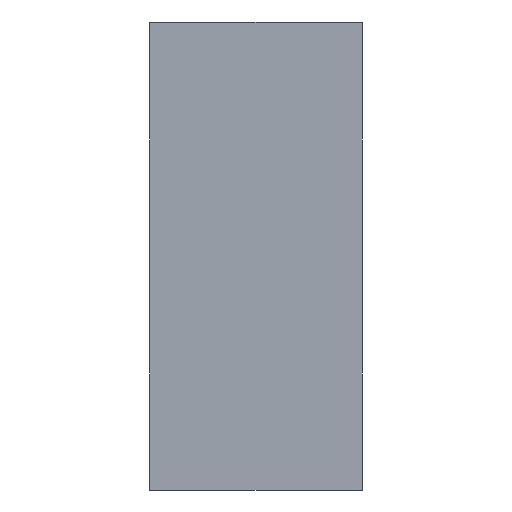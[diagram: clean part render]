
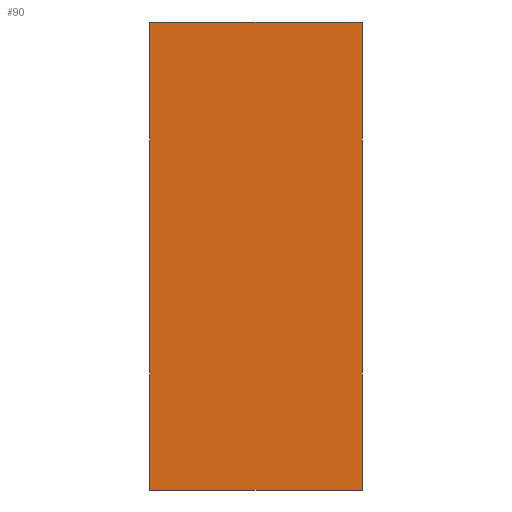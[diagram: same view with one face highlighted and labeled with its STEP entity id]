
A CAD part, front view. The second image highlights one B-rep face of the part: STEP entity #90.
In plain terms, the highlighted planar face has unit normal (0, -1, 0).
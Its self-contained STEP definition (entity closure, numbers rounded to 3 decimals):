
#7 = EDGE_CURVE ( 'NONE', #285, #272, #147, .T. ) ;
#23 = EDGE_CURVE ( 'NONE', #272, #325, #114, .T. ) ;
#28 = EDGE_CURVE ( 'NONE', #285, #240, #103, .T. ) ;
#29 = EDGE_CURVE ( 'NONE', #240, #325, #174, .T. ) ;
#43 = AXIS2_PLACEMENT_3D ( 'NONE', #353, #301, #384 ) ;
#57 = FACE_OUTER_BOUND ( 'NONE', #199, .T. ) ;
#90 = ADVANCED_FACE ( 'NONE', ( #57 ), #278, .F. ) ;
#103 = LINE ( 'NONE', #313, #175 ) ;
#106 = ORIENTED_EDGE ( 'NONE', *, *, #29, .F. ) ;
#114 = LINE ( 'NONE', #334, #173 ) ;
#139 = ORIENTED_EDGE ( 'NONE', *, *, #7, .T. ) ;
#142 = VECTOR ( 'NONE', #335, 1000. ) ;
#147 = LINE ( 'NONE', #239, #142 ) ;
#165 = VECTOR ( 'NONE', #228, 1000. ) ;
#173 = VECTOR ( 'NONE', #261, 1000. ) ;
#174 = LINE ( 'NONE', #294, #165 ) ;
#175 = VECTOR ( 'NONE', #359, 1000. ) ;
#192 = ORIENTED_EDGE ( 'NONE', *, *, #28, .F. ) ;
#199 = EDGE_LOOP ( 'NONE', ( #220, #106, #192, #139 ) ) ;
#220 = ORIENTED_EDGE ( 'NONE', *, *, #23, .T. ) ;
#228 = DIRECTION ( 'NONE',  ( -1., 0., 0. ) ) ;
#239 = CARTESIAN_POINT ( 'NONE',  ( 100., 0., 0. ) ) ;
#240 = VERTEX_POINT ( 'NONE', #386 ) ;
#255 = CARTESIAN_POINT ( 'NONE',  ( 100., 0., 0. ) ) ;
#261 = DIRECTION ( 'NONE',  ( 0., 0., -1. ) ) ;
#272 = VERTEX_POINT ( 'NONE', #378 ) ;
#278 = PLANE ( 'NONE',  #43 ) ;
#285 = VERTEX_POINT ( 'NONE', #255 ) ;
#294 = CARTESIAN_POINT ( 'NONE',  ( 100., 0., -441. ) ) ;
#301 = DIRECTION ( 'NONE',  ( 0., 1., 0. ) ) ;
#313 = CARTESIAN_POINT ( 'NONE',  ( 100., 0., 0. ) ) ;
#325 = VERTEX_POINT ( 'NONE', #330 ) ;
#330 = CARTESIAN_POINT ( 'NONE',  ( -100., 0., -441. ) ) ;
#334 = CARTESIAN_POINT ( 'NONE',  ( -100., 0., 0. ) ) ;
#335 = DIRECTION ( 'NONE',  ( -1., 0., 0. ) ) ;
#353 = CARTESIAN_POINT ( 'NONE',  ( 100., 0., 0. ) ) ;
#359 = DIRECTION ( 'NONE',  ( 0., 0., -1. ) ) ;
#378 = CARTESIAN_POINT ( 'NONE',  ( -100., 0., 0. ) ) ;
#384 = DIRECTION ( 'NONE',  ( 0., 0., 1. ) ) ;
#386 = CARTESIAN_POINT ( 'NONE',  ( 100., 0., -441. ) ) ;
